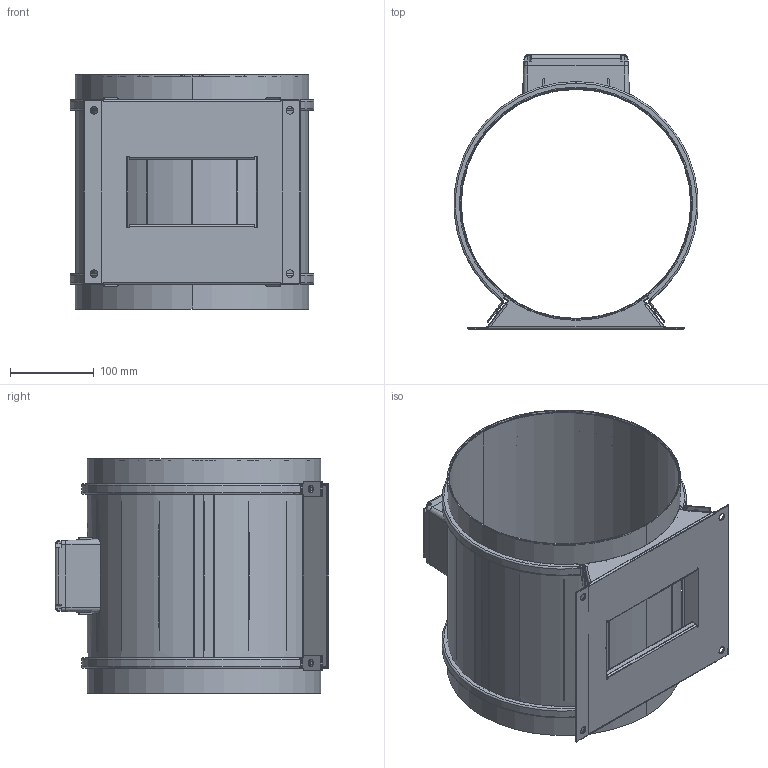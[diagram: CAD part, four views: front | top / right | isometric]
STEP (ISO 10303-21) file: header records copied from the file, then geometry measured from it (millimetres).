
FILE_DESCRIPTION (( 'STEP AP203' ), '1' );
FILE_NAME ('130471-00_EM280E2M01.STEP', '2014-08-27T12:48:40', ( '' ), ( '' ), 'SwSTEP 2.0', 'SolidWorks 2012', '' );
FILE_SCHEMA (( 'CONFIG_CONTROL_DESIGN' ));
Length unit declared in the file: millimetre
Products named in the file (1): 130471-00_EM280E2M01
Bounding box: 291.42 x 327.55 x 280 mm (x, y, z)
Surface area: 746947.8 mm2 (no closed solid volume)
Topology: 0 solids, 16 shells, 693 faces, 2947 edges, 2136 vertices
Faces by surface type: cylinder 268, plane 229, bspline 93, torus 62, cone 41
Entity records: 41703 total; most frequent: CARTESIAN_POINT 19301, ORIENTED_EDGE 4331, DIRECTION 4283, EDGE_CURVE 2943, VERTEX_POINT 2136, LINE 1493, VECTOR 1493, AXIS2_PLACEMENT_3D 1395
